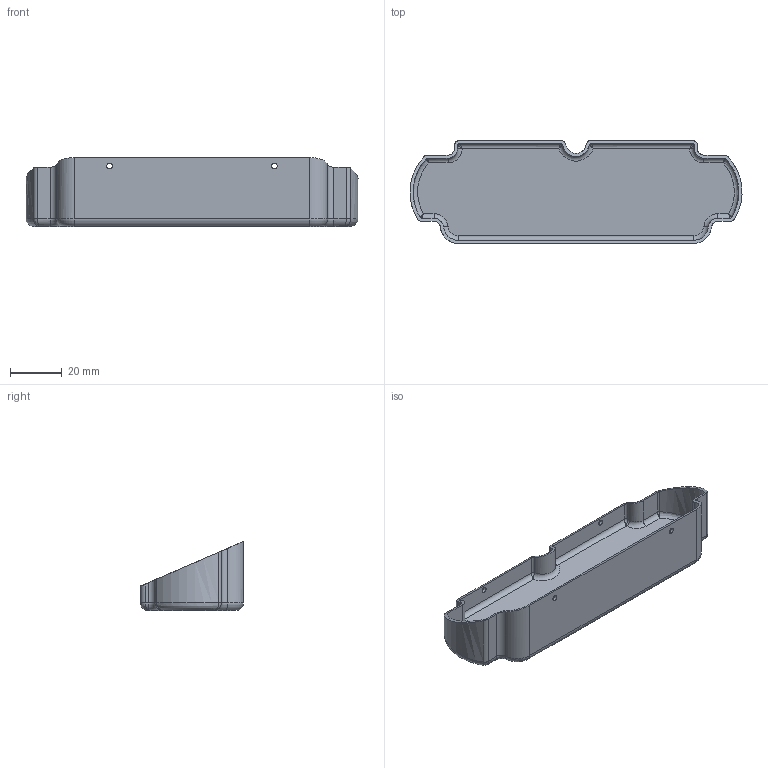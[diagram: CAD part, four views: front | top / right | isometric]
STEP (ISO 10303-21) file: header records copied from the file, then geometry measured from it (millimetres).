
FILE_DESCRIPTION (( 'STEP AP214' ), '1' );
FILE_NAME ('Bambu Lab AMS Rear Dessicant Tray v3.STEP', '2023-03-03T09:51:44', ( '' ), ( '' ), 'SwSTEP 2.0', 'SolidWorks 2022', '' );
FILE_SCHEMA (( 'AUTOMOTIVE_DESIGN' ));
Length unit declared in the file: millimetre
Products named in the file (1): Bambu Lab AMS Rear Dessicant Tray v3
Bounding box: 128.95 x 40.05 x 26.81 mm (x, y, z)
Volume: 11460 mm3; surface area: 19545.1 mm2
Topology: 1 solids, 1 shells, 121 faces, 304 edges, 168 vertices
Faces by surface type: cylinder 62, bspline 24, plane 21, torus 14
Entity records: 5082 total; most frequent: CARTESIAN_POINT 2560, ORIENTED_EDGE 572, DIRECTION 456, EDGE_CURVE 286, AXIS2_PLACEMENT_3D 168, VERTEX_POINT 168, EDGE_LOOP 130, FACE_OUTER_BOUND 121
